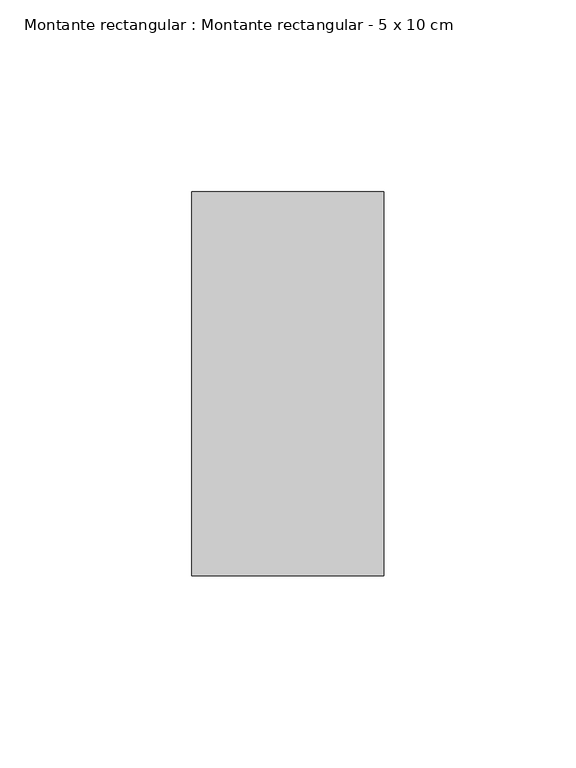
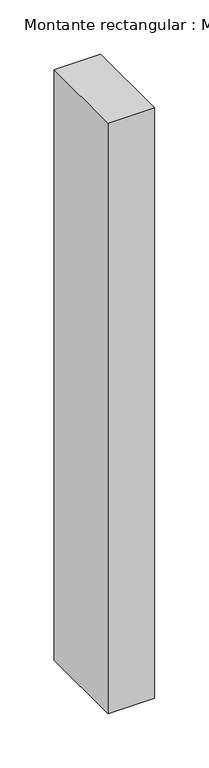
"""IFC4 building model written with IfcOpenShell, lengths in millimetres: member geometry, Montante rectangular : Montante rectangular - 5 x 10 cm."""

from ifc_helpers import new_model, si_unit, frame, origin, place, context, project, spatial, polyline, outline, extrude, source, transform, mapped, element, save


def montante_rectangular_montante_rectangular_5_x_10_cm_32aadb5f(model_context):
    return source(origin(), model_context, "Body", "SweptSolid", [
        extrude(outline(polyline([(25.0, 50.0), (25.0, -50.0), (-25.0, -50.0), (-25.0, 50.0), (25.0, 50.0)])), frame((0.0, 0.0, -666.6666668), z_axis=(0.0, 0.0, 1.0), x_axis=(1.0, 0.0, 0.0)), (0.0, 0.0, 1.0), 666.6666668),
    ])


if __name__ == "__main__":
    model = new_model("IFC4")
    model_context = context("Model", 3, world=origin())
    ifc_project = project(units=[si_unit("LENGTHUNIT", "METRE", prefix="MILLI")], contexts=[model_context])
    site = spatial("IfcSite", under=ifc_project)
    building = spatial("IfcBuilding", under=site)
    placement = place(None, origin())
    montante_rectangular_montante_rectangular_5_x_10_cm_shape = montante_rectangular_montante_rectangular_5_x_10_cm_32aadb5f(model_context)
    element("IfcMember", 1, ObjectType="Montante rectangular : Montante rectangular - 5 x 10 cm", at=placement, inside=building, context=model_context, shape_type="MappedRepresentation", body=[
        mapped(montante_rectangular_montante_rectangular_5_x_10_cm_shape, transform((0.0, 0.0, 0.0), x_axis=(1.0, 0.0, 0.0), y_axis=(0.0, 1.0, 0.0), z_axis=(0.0, 0.0, 1.0))),
    ])
    save(model, "model.ifc")
